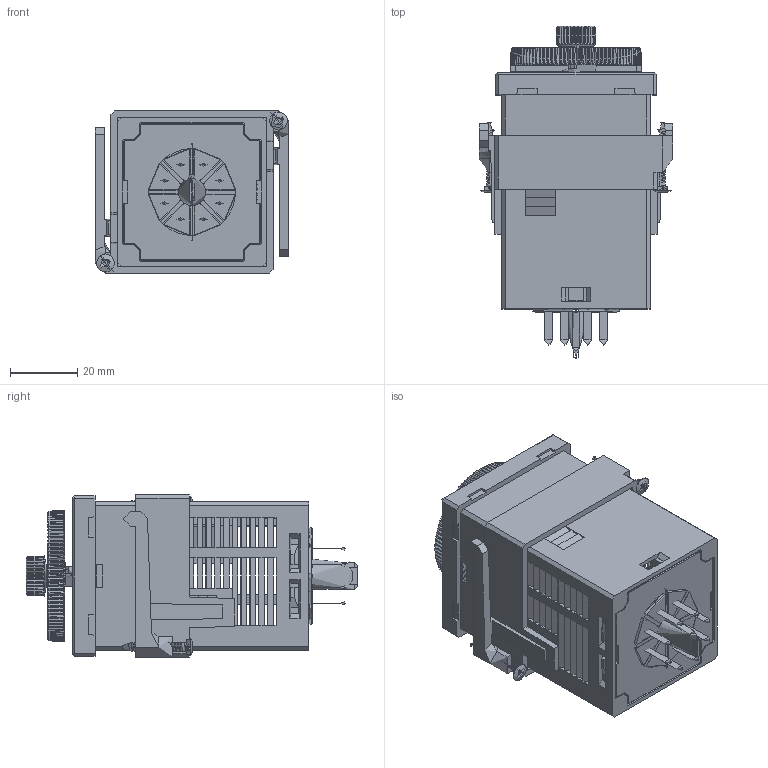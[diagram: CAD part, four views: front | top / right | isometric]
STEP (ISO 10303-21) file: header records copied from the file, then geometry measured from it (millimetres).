
FILE_DESCRIPTION( ( 'Unknown' ), '1' );
FILE_NAME( 'H:/Disegni/Lavori in sospeso/Catalogo/8892 aggiornato/prova/8892_4.stp', 'Unknown', ( 'Unknown' ), ( 'Unknown' ), 'PSStep 15.0.49', 'Unknown', ' ' );
FILE_SCHEMA( ( 'AUTOMOTIVE_DESIGN { 1 0 10303 214 1 1 1 1 }' ) );
Length unit declared in the file: millimetre
Products named in the file (3125): Assem1; top_0
Assembly tree (3124 placements, depth 2):
  Assem1
    top_0
    top_0
    top_0
    top_0
    top_0
    top_0
    top_0
    top_0
    top_0
    top_0
    top_0
    top_0
    top_0
    top_0
    top_0
    top_0
    top_0
    top_0
    top_0
    top_0
    top_0
    top_0
    top_0
    top_0
    top_0
    top_0
    top_0
    top_0
    top_0
    top_0
    top_0
    top_0
    top_0
    top_0
    top_0
    top_0
    top_0
    top_0
    top_0
    top_0
    top_0
    top_0
    top_0
    top_0
    top_0
    top_0
    top_0
    top_0
    top_0
    top_0
    top_0
    top_0
    top_0
    top_0
    top_0
    top_0
    top_0
    top_0
    top_0
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Bounding box: 57.6 x 98.85 x 48.3 mm (x, y, z)
Topology: 0 solids, 3124 shells, 3124 faces, 16327 edges, 16192 vertices
Faces by surface type: plane 1947, bspline 698, cylinder 479
Full cylindrical faces by diameter (mm): 0.011 x1, 0.576 x1, 1.3 x2, 2.1 x2, 2.3 x8, 2.5 x8, 2.9 x30, 3.2 x2, 3.5 x1, 3.7 x2, 3.9 x2, 4.15 x1, 4.3 x1, 4.5 x2, 5.1 x1, 5.5 x5, 6 x1, 6.8 x1, 8 x1, 9.3 x1, 10 x1, 28.7 x1, 37.1 x1, 38.7 x1, 39 x1
Entity records: 301541 total; most frequent: CARTESIAN_POINT 133141, ORIENTED_EDGE 16193, EDGE_CURVE 16193, VERTEX_POINT 16193, B_SPLINE_CURVE_WITH_KNOTS 15139, DIRECTION 11104, PRODUCT_DEFINITION_SHAPE 6249, AXIS2_PLACEMENT_3D 5551
